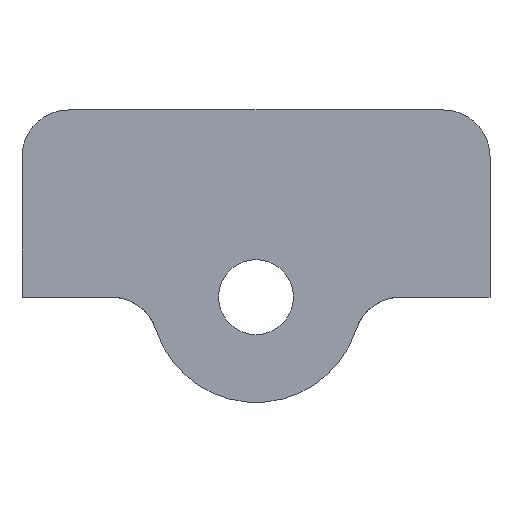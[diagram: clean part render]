
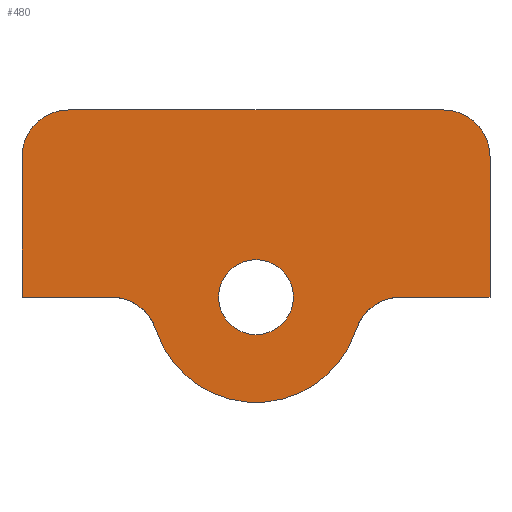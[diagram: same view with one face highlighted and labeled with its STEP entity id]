
A CAD part, front view. The second image highlights one B-rep face of the part: STEP entity #480.
In plain terms, the highlighted planar face has unit normal (0, -1, 0).
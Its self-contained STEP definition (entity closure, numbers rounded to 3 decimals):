
#16=FACE_BOUND('',#75,.T.);
#29=PLANE('',#530);
#48=FACE_OUTER_BOUND('',#74,.T.);
#74=EDGE_LOOP('',(#387,#388,#389,#390,#391,#392,#393,#394,#395,#396));
#75=EDGE_LOOP('',(#397));
#88=LINE('',#698,#139);
#109=LINE('',#754,#160);
#114=LINE('',#765,#165);
#120=LINE('',#777,#171);
#124=LINE('',#786,#175);
#139=VECTOR('',#560,1000.);
#160=VECTOR('',#607,1000.);
#165=VECTOR('',#616,1000.);
#171=VECTOR('',#624,1000.);
#175=VECTOR('',#632,1000.);
#189=CIRCLE('',#507,0.8);
#200=CIRCLE('',#531,1.);
#201=CIRCLE('',#532,1.);
#202=CIRCLE('',#533,1.);
#203=CIRCLE('',#534,2.25);
#204=CIRCLE('',#535,1.);
#207=VERTEX_POINT('',#690);
#209=VERTEX_POINT('',#696);
#210=VERTEX_POINT('',#697);
#231=VERTEX_POINT('',#752);
#232=VERTEX_POINT('',#753);
#235=VERTEX_POINT('',#763);
#236=VERTEX_POINT('',#764);
#241=VERTEX_POINT('',#775);
#244=VERTEX_POINT('',#784);
#247=VERTEX_POINT('',#796);
#248=VERTEX_POINT('',#798);
#253=EDGE_CURVE('',#207,#207,#189,.T.);
#256=EDGE_CURVE('',#209,#210,#88,.T.);
#283=EDGE_CURVE('',#231,#232,#109,.T.);
#289=EDGE_CURVE('',#235,#236,#114,.T.);
#295=EDGE_CURVE('',#241,#209,#120,.T.);
#300=EDGE_CURVE('',#244,#231,#124,.T.);
#304=EDGE_CURVE('',#241,#236,#200,.T.);
#305=EDGE_CURVE('',#235,#232,#201,.T.);
#306=EDGE_CURVE('',#244,#247,#202,.T.);
#307=EDGE_CURVE('',#248,#247,#203,.T.);
#308=EDGE_CURVE('',#248,#210,#204,.T.);
#387=ORIENTED_EDGE('',*,*,#295,.F.);
#388=ORIENTED_EDGE('',*,*,#304,.T.);
#389=ORIENTED_EDGE('',*,*,#289,.F.);
#390=ORIENTED_EDGE('',*,*,#305,.T.);
#391=ORIENTED_EDGE('',*,*,#283,.F.);
#392=ORIENTED_EDGE('',*,*,#300,.F.);
#393=ORIENTED_EDGE('',*,*,#306,.T.);
#394=ORIENTED_EDGE('',*,*,#307,.F.);
#395=ORIENTED_EDGE('',*,*,#308,.T.);
#396=ORIENTED_EDGE('',*,*,#256,.F.);
#397=ORIENTED_EDGE('',*,*,#253,.T.);
#480=ADVANCED_FACE('',(#48,#16),#29,.T.);
#507=AXIS2_PLACEMENT_3D('',#691,#553,#554);
#530=AXIS2_PLACEMENT_3D('',#793,#639,#640);
#531=AXIS2_PLACEMENT_3D('',#794,#641,#642);
#532=AXIS2_PLACEMENT_3D('',#795,#643,#644);
#533=AXIS2_PLACEMENT_3D('',#797,#645,#646);
#534=AXIS2_PLACEMENT_3D('',#799,#647,#648);
#535=AXIS2_PLACEMENT_3D('',#800,#649,#650);
#553=DIRECTION('center_axis',(0.,1.,0.));
#554=DIRECTION('ref_axis',(0.,0.,-1.));
#560=DIRECTION('',(-1.,0.,0.));
#607=DIRECTION('',(0.,0.,1.));
#616=DIRECTION('',(1.,0.,0.));
#624=DIRECTION('',(0.,0.,-1.));
#632=DIRECTION('',(-1.,0.,0.));
#639=DIRECTION('center_axis',(0.,-1.,0.));
#640=DIRECTION('ref_axis',(0.,0.,-1.));
#641=DIRECTION('center_axis',(0.,-1.,0.));
#642=DIRECTION('ref_axis',(0.,0.,-1.));
#643=DIRECTION('center_axis',(0.,-1.,0.));
#644=DIRECTION('ref_axis',(0.,0.,-1.));
#645=DIRECTION('center_axis',(0.,1.,0.));
#646=DIRECTION('ref_axis',(0.,0.,-1.));
#647=DIRECTION('center_axis',(0.,1.,0.));
#648=DIRECTION('ref_axis',(0.,0.,-1.));
#649=DIRECTION('center_axis',(0.,1.,0.));
#650=DIRECTION('ref_axis',(0.,0.,-1.));
#690=CARTESIAN_POINT('',(5.,0.,-4.8));
#691=CARTESIAN_POINT('Origin',(5.,0.,-4.));
#696=CARTESIAN_POINT('',(10.,0.,-4.));
#697=CARTESIAN_POINT('',(8.092,0.,-4.));
#698=CARTESIAN_POINT('',(0.,0.,-4.));
#752=CARTESIAN_POINT('',(0.,0.,-4.));
#753=CARTESIAN_POINT('',(0.,0.,-1.));
#754=CARTESIAN_POINT('',(0.,0.,0.));
#763=CARTESIAN_POINT('',(1.,0.,0.));
#764=CARTESIAN_POINT('',(9.,0.,0.));
#765=CARTESIAN_POINT('',(0.,0.,0.));
#775=CARTESIAN_POINT('',(10.,0.,-1.));
#777=CARTESIAN_POINT('',(10.,0.,0.));
#784=CARTESIAN_POINT('',(1.908,0.,-4.));
#786=CARTESIAN_POINT('',(0.,0.,-4.));
#793=CARTESIAN_POINT('Origin',(0.,0.,0.));
#794=CARTESIAN_POINT('Origin',(9.,0.,-1.));
#795=CARTESIAN_POINT('Origin',(1.,0.,-1.));
#796=CARTESIAN_POINT('',(2.859,0.,-4.692));
#797=CARTESIAN_POINT('Origin',(1.908,0.,-5.));
#798=CARTESIAN_POINT('',(7.141,0.,-4.692));
#799=CARTESIAN_POINT('Origin',(5.,0.,-4.));
#800=CARTESIAN_POINT('Origin',(8.092,0.,-5.));
